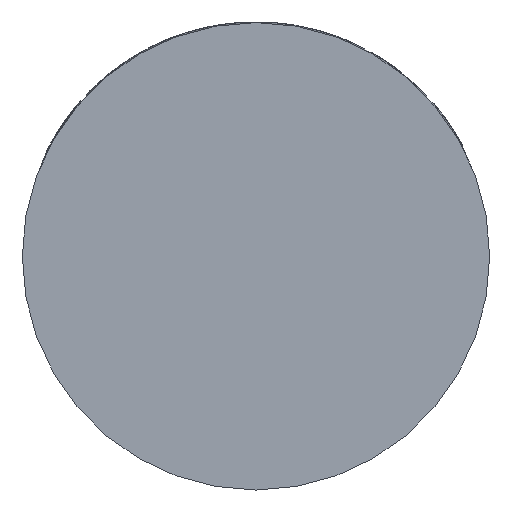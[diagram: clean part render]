
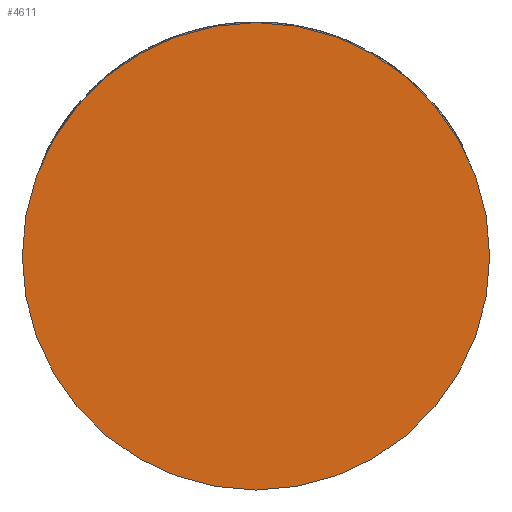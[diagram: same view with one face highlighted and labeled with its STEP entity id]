
A CAD part, front view. The second image highlights one B-rep face of the part: STEP entity #4611.
In plain terms, the highlighted planar face has unit normal (0, -1, 0).
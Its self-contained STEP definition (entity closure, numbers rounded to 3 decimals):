
#197=PLANE('',#4925);
#543=FACE_OUTER_BOUND('',#826,.T.);
#826=EDGE_LOOP('',(#4257));
#1605=CIRCLE('',#4917,38.);
#2257=VERTEX_POINT('',#9458);
#2928=EDGE_CURVE('',#2257,#2257,#1605,.T.);
#4257=ORIENTED_EDGE('',*,*,#2928,.T.);
#4611=ADVANCED_FACE('',(#543),#197,.F.);
#4917=AXIS2_PLACEMENT_3D('',#9459,#5843,#5844);
#4925=AXIS2_PLACEMENT_3D('',#9469,#5859,#5860);
#5843=DIRECTION('center_axis',(0.,-1.,0.));
#5844=DIRECTION('ref_axis',(1.,0.,0.));
#5859=DIRECTION('center_axis',(0.,1.,0.));
#5860=DIRECTION('ref_axis',(0.,0.,1.));
#9458=CARTESIAN_POINT('',(-38.,0.,0.));
#9459=CARTESIAN_POINT('Origin',(0.,0.,0.));
#9469=CARTESIAN_POINT('Origin',(0.,0.,0.));
